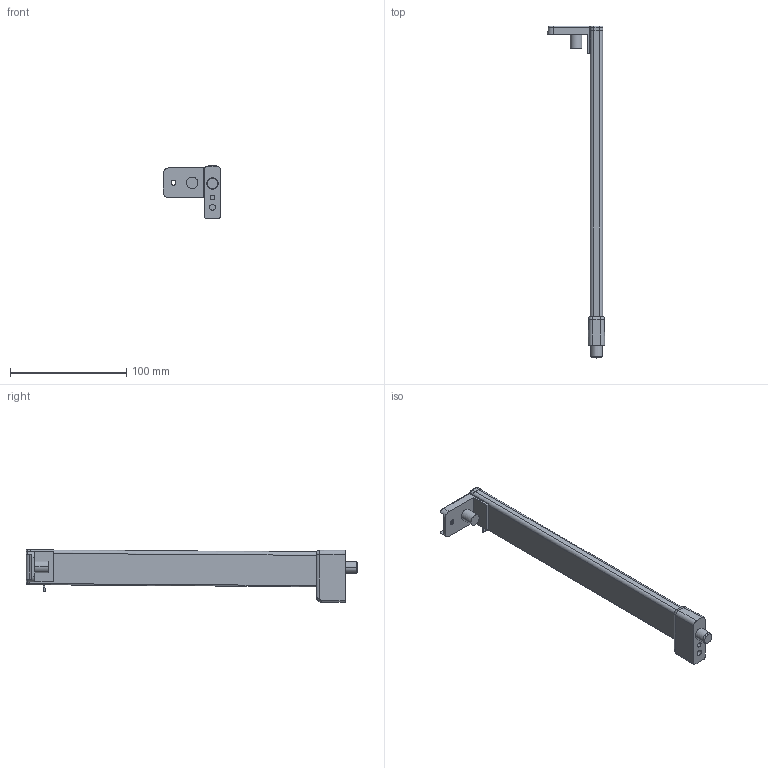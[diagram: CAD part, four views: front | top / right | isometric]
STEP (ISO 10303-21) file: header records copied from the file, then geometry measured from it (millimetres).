
FILE_DESCRIPTION (( 'STEP AP214' ), '1' );
FILE_NAME ('_2S_REL_7606_NL270_RE.step', '2010-07-01T14:41:30', ( 'grass' ), ( '' ), 'SwSTEP 2.0', 'SolidWorks 2009', '' );
FILE_SCHEMA (( 'AUTOMOTIVE_DESIGN' ));
Length unit declared in the file: millimetre
Products named in the file (1): _2S_REL_7606_NL270_RE
Bounding box: 49.25 x 285.5 x 45.4 mm (x, y, z)
Volume: 98131.4 mm3; surface area: 27484.7 mm2
Topology: 2 solids, 2 shells, 120 faces, 292 edges, 178 vertices
Faces by surface type: cylinder 58, plane 40, bspline 10, torus 6, cone 4, sphere 2
Entity records: 4659 total; most frequent: CARTESIAN_POINT 1934, ORIENTED_EDGE 580, DIRECTION 546, EDGE_CURVE 290, AXIS2_PLACEMENT_3D 203, VERTEX_POINT 178, LINE 140, VECTOR 140
